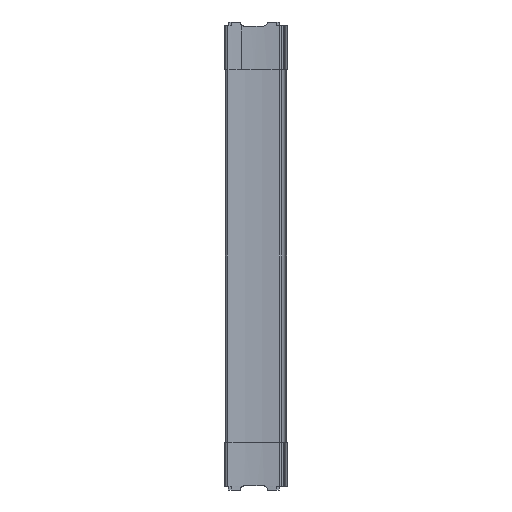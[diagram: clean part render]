
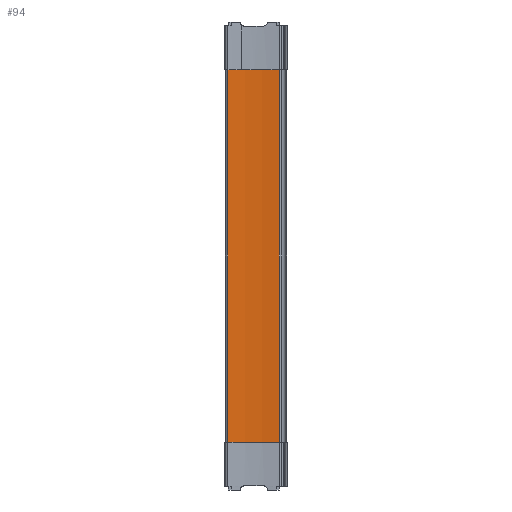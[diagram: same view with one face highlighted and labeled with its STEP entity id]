
A CAD part, left-side view. The second image highlights one B-rep face of the part: STEP entity #94.
In plain terms, the highlighted cylindrical face has radius 250 mm (diameter 500 mm), a partial arc.
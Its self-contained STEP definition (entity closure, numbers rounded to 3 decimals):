
#94 = ADVANCED_FACE ( 'NONE', ( #3062 ), #3059, .F. ) ;
#272 = EDGE_CURVE ( 'NONE', #3434, #3482, #2931, .T. ) ;
#382 = EDGE_CURVE ( 'NONE', #3434, #3531, #2755, .T. ) ;
#383 = EDGE_CURVE ( 'NONE', #3531, #3325, #2764, .T. ) ;
#384 = EDGE_CURVE ( 'NONE', #3325, #3482, #2752, .T. ) ;
#682 = AXIS2_PLACEMENT_3D ( 'NONE', #3735, #3734, #3733 ) ;
#775 = AXIS2_PLACEMENT_3D ( 'NONE', #4314, #4316, #4317 ) ;
#779 = AXIS2_PLACEMENT_3D ( 'NONE', #4304, #4309, #4310 ) ;
#1264 = CARTESIAN_POINT ( 'NONE',  ( -8.643, 8.331, -200. ) ) ;
#1371 = CARTESIAN_POINT ( 'NONE',  ( -5.747, 63.571, 200. ) ) ;
#1419 = CARTESIAN_POINT ( 'NONE',  ( -5.747, 63.571, -200. ) ) ;
#1430 = CARTESIAN_POINT ( 'NONE',  ( -8.643, 8.331, 200. ) ) ;
#2157 = ORIENTED_EDGE ( 'NONE', *, *, #272, .T. ) ;
#2158 = ORIENTED_EDGE ( 'NONE', *, *, #382, .F. ) ;
#2159 = ORIENTED_EDGE ( 'NONE', *, *, #383, .F. ) ;
#2160 = ORIENTED_EDGE ( 'NONE', *, *, #384, .F. ) ;
#2294 = EDGE_LOOP ( 'NONE', ( #2160, #2159, #2158, #2157 ) ) ;
#2752 = CIRCLE ( 'NONE', #775, 250. ) ;
#2755 = CIRCLE ( 'NONE', #779, 250. ) ;
#2757 = VECTOR ( 'NONE', #4313, 1000. ) ;
#2764 = LINE ( 'NONE', #4312, #2757 ) ;
#2930 = VECTOR ( 'NONE', #4025, 1000. ) ;
#2931 = LINE ( 'NONE', #4024, #2930 ) ;
#3059 = CYLINDRICAL_SURFACE ( 'NONE', #682, 250. ) ;
#3062 = FACE_OUTER_BOUND ( 'NONE', #2294, .T. ) ;
#3325 = VERTEX_POINT ( 'NONE', #1264 ) ;
#3434 = VERTEX_POINT ( 'NONE', #1371 ) ;
#3482 = VERTEX_POINT ( 'NONE', #1419 ) ;
#3531 = VERTEX_POINT ( 'NONE', #1430 ) ;
#3733 = DIRECTION ( 'NONE',  ( -1., 0., 0. ) ) ;
#3734 = DIRECTION ( 'NONE',  ( 0., 0., -1. ) ) ;
#3735 = CARTESIAN_POINT ( 'NONE',  ( -255.319, 48.963, 206. ) ) ;
#4024 = CARTESIAN_POINT ( 'NONE',  ( -5.747, 63.571, 206. ) ) ;
#4025 = DIRECTION ( 'NONE',  ( 0., 0., -1. ) ) ;
#4304 = CARTESIAN_POINT ( 'NONE',  ( -255.319, 48.963, 200. ) ) ;
#4309 = DIRECTION ( 'NONE',  ( 0., 0., -1. ) ) ;
#4310 = DIRECTION ( 'NONE',  ( 1., 0., 0. ) ) ;
#4312 = CARTESIAN_POINT ( 'NONE',  ( -8.643, 8.331, 206. ) ) ;
#4313 = DIRECTION ( 'NONE',  ( 0., 0., -1. ) ) ;
#4314 = CARTESIAN_POINT ( 'NONE',  ( -255.319, 48.963, -200. ) ) ;
#4316 = DIRECTION ( 'NONE',  ( 0., 0., 1. ) ) ;
#4317 = DIRECTION ( 'NONE',  ( -1., 0., 0. ) ) ;
